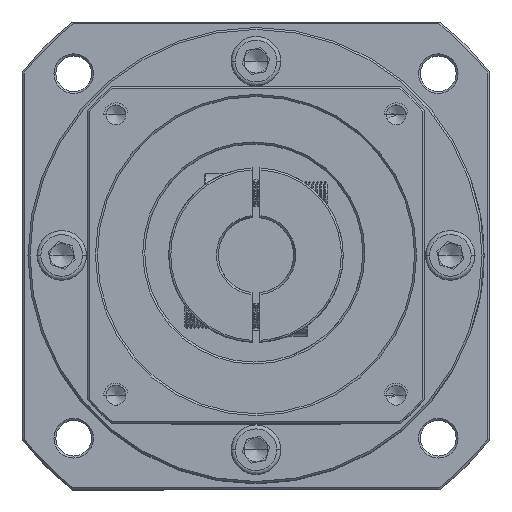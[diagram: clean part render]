
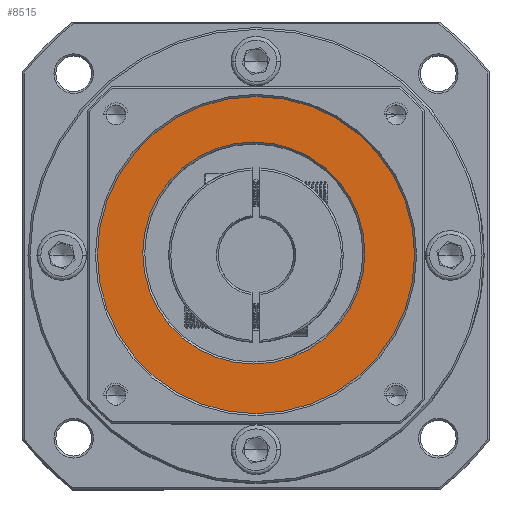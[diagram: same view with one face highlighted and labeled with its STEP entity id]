
A CAD part, top view. The second image highlights one B-rep face of the part: STEP entity #8515.
In plain terms, the highlighted planar face has unit normal (0, 0, 1).
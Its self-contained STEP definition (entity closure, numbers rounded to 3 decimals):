
#537 = VERTEX_POINT ( 'NONE', #39985 ) ;
#6530 = DIRECTION ( 'NONE',  ( 0., 0., 1. ) ) ;
#7418 = EDGE_LOOP ( 'NONE', ( #102905, #51874 ) ) ;
#7448 = CIRCLE ( 'NONE', #88340, 40. ) ;
#7633 = DIRECTION ( 'NONE',  ( 1., 0., 0. ) ) ;
#8515 = ADVANCED_FACE ( 'NONE', ( #74050, #53670 ), #76110, .T. ) ;
#16696 = EDGE_CURVE ( 'NONE', #91322, #19904, #42061, .T. ) ;
#19904 = VERTEX_POINT ( 'NONE', #71309 ) ;
#24665 = CARTESIAN_POINT ( 'NONE',  ( -104.92, 50.383, 42.838 ) ) ;
#24839 = AXIS2_PLACEMENT_3D ( 'NONE', #59050, #6530, #67741 ) ;
#33451 = DIRECTION ( 'NONE',  ( 1., 0., 0. ) ) ;
#33803 = DIRECTION ( 'NONE',  ( 0., 0., 1. ) ) ;
#35718 = CARTESIAN_POINT ( 'NONE',  ( -104.379, 49.849, 42.838 ) ) ;
#39985 = CARTESIAN_POINT ( 'NONE',  ( -144.379, 49.849, 42.838 ) ) ;
#42061 = CIRCLE ( 'NONE', #53512, 28. ) ;
#44525 = DIRECTION ( 'NONE',  ( 1., 0., 0. ) ) ;
#51441 = CARTESIAN_POINT ( 'NONE',  ( -64.379, 49.849, 42.838 ) ) ;
#51874 = ORIENTED_EDGE ( 'NONE', *, *, #16696, .T. ) ;
#53248 = CIRCLE ( 'NONE', #106107, 40. ) ;
#53512 = AXIS2_PLACEMENT_3D ( 'NONE', #112264, #60106, #7633 ) ;
#53670 = FACE_BOUND ( 'NONE', #7418, .T. ) ;
#59050 = CARTESIAN_POINT ( 'NONE',  ( -104.379, 49.849, 42.838 ) ) ;
#60106 = DIRECTION ( 'NONE',  ( 0., 0., -1. ) ) ;
#63685 = EDGE_LOOP ( 'NONE', ( #64885, #86918 ) ) ;
#64885 = ORIENTED_EDGE ( 'NONE', *, *, #76451, .T. ) ;
#67741 = DIRECTION ( 'NONE',  ( 1., 0., 0. ) ) ;
#70797 = AXIS2_PLACEMENT_3D ( 'NONE', #24665, #85829, #33451 ) ;
#71309 = CARTESIAN_POINT ( 'NONE',  ( -76.92, 50.383, 42.838 ) ) ;
#74050 = FACE_OUTER_BOUND ( 'NONE', #63685, .T. ) ;
#76110 = PLANE ( 'NONE',  #24839 ) ;
#76451 = EDGE_CURVE ( 'NONE', #84562, #537, #53248, .T. ) ;
#81442 = CIRCLE ( 'NONE', #70797, 28. ) ;
#84562 = VERTEX_POINT ( 'NONE', #51441 ) ;
#85829 = DIRECTION ( 'NONE',  ( 0., 0., -1. ) ) ;
#86193 = CARTESIAN_POINT ( 'NONE',  ( -104.379, 49.849, 42.838 ) ) ;
#86918 = ORIENTED_EDGE ( 'NONE', *, *, #108923, .T. ) ;
#88340 = AXIS2_PLACEMENT_3D ( 'NONE', #86193, #33803, #94942 ) ;
#88359 = EDGE_CURVE ( 'NONE', #19904, #91322, #81442, .T. ) ;
#89980 = CARTESIAN_POINT ( 'NONE',  ( -132.92, 50.383, 42.838 ) ) ;
#91322 = VERTEX_POINT ( 'NONE', #89980 ) ;
#94942 = DIRECTION ( 'NONE',  ( 1., 0., 0. ) ) ;
#96828 = DIRECTION ( 'NONE',  ( 0., 0., 1. ) ) ;
#102905 = ORIENTED_EDGE ( 'NONE', *, *, #88359, .T. ) ;
#106107 = AXIS2_PLACEMENT_3D ( 'NONE', #35718, #96828, #44525 ) ;
#108923 = EDGE_CURVE ( 'NONE', #537, #84562, #7448, .T. ) ;
#112264 = CARTESIAN_POINT ( 'NONE',  ( -104.92, 50.383, 42.838 ) ) ;
